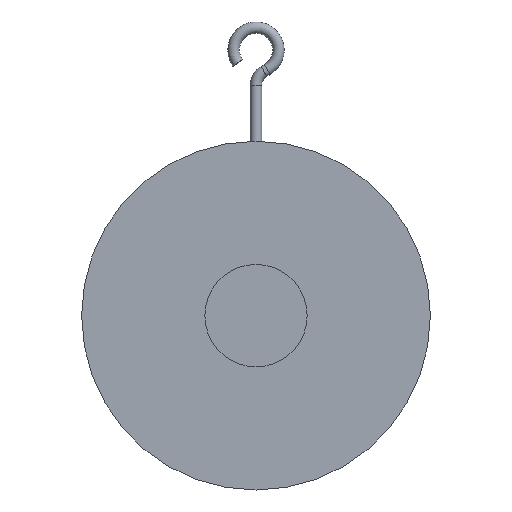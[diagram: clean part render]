
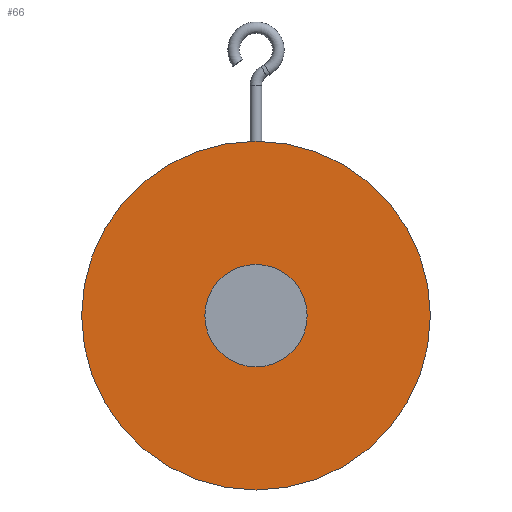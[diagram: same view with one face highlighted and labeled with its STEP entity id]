
A CAD part, front view. The second image highlights one B-rep face of the part: STEP entity #66.
In plain terms, the highlighted planar face has unit normal (0, -1, 0).
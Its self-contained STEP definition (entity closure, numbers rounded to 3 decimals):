
#66=ADVANCED_FACE('',(#203,#205),#207,.T.);
#203=FACE_BOUND('',#204,.T.);
#204=EDGE_LOOP('',(#315));
#205=FACE_BOUND('',#206,.T.);
#206=EDGE_LOOP('',(#316));
#207=PLANE('',#208);
#208=AXIS2_PLACEMENT_3D('',#209,#210,#211);
#209=CARTESIAN_POINT('',(0.,-8.,0.));
#210=DIRECTION('',(0.,-1.,0.));
#211=DIRECTION('',(0.,0.,1.));
#315=ORIENTED_EDGE('',*,*,#356,.F.);
#316=ORIENTED_EDGE('',*,*,#358,.T.);
#356=EDGE_CURVE('',#383,#383,#384,.T.);
#358=EDGE_CURVE('',#387,#387,#388,.T.);
#383=VERTEX_POINT('',#577);
#384=CIRCLE('',#578,54.5);
#387=VERTEX_POINT('',#587);
#388=CIRCLE('',#588,16.);
#577=CARTESIAN_POINT('',(0.,-8.,54.5));
#578=AXIS2_PLACEMENT_3D('',#579,#580,#581);
#579=CARTESIAN_POINT('',(0.,-8.,0.));
#580=DIRECTION('',(0.,1.,0.));
#581=DIRECTION('',(0.,0.,1.));
#587=CARTESIAN_POINT('',(0.,-8.,16.));
#588=AXIS2_PLACEMENT_3D('',#589,#590,#591);
#589=CARTESIAN_POINT('',(0.,-8.,0.));
#590=DIRECTION('',(0.,1.,0.));
#591=DIRECTION('',(0.,0.,1.));
